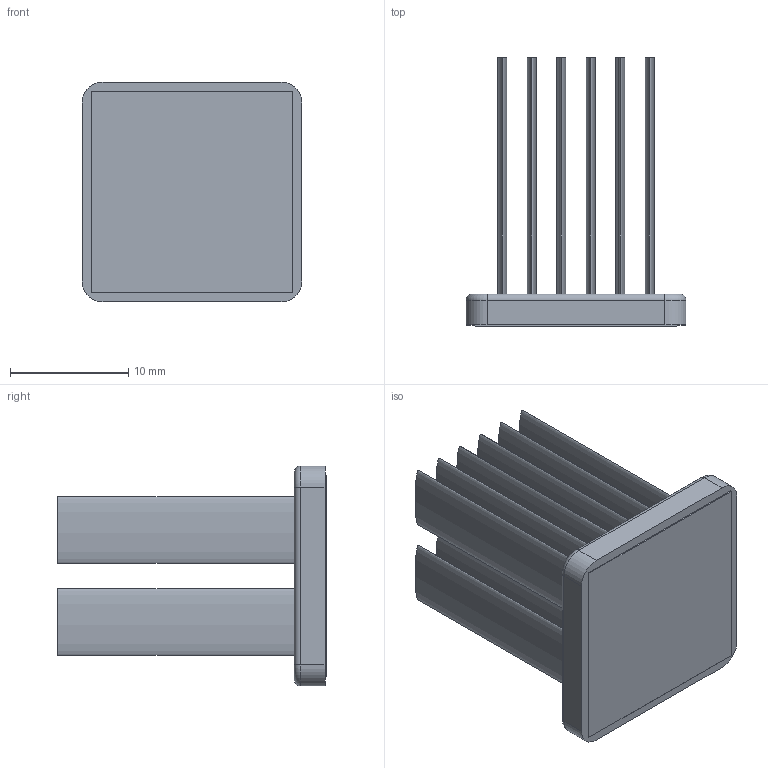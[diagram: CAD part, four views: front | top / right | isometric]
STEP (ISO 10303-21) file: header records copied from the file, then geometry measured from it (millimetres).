
FILE_DESCRIPTION (( 'STEP AP214' ), '1' );
FILE_NAME ('INM19001-23W-2.6.STEP', '2023-03-02T18:20:25', ( '' ), ( '' ), 'SwSTEP 2.0', 'SolidWorks 2020', '' );
FILE_SCHEMA (( 'AUTOMOTIVE_DESIGN' ));
Length unit declared in the file: millimetre
Products named in the file (1): INM19001-23W-2.6
Bounding box: 18.6 x 22.7 x 18.6 mm (x, y, z)
Volume: 1727.4 mm3; surface area: 4219.5 mm2
Topology: 2 solids, 2 shells, 60 faces, 124 edges, 80 vertices
Faces by surface type: bspline 24, plane 24, cylinder 8, torus 4
Entity records: 2339 total; most frequent: CARTESIAN_POINT 577, ORIENTED_EDGE 248, DIRECTION 170, EDGE_CURVE 124, VERTEX_POINT 80, EDGE_LOOP 72, UNCERTAINTY_MEASURE_WITH_UNIT 64, COLOUR_RGB 63
